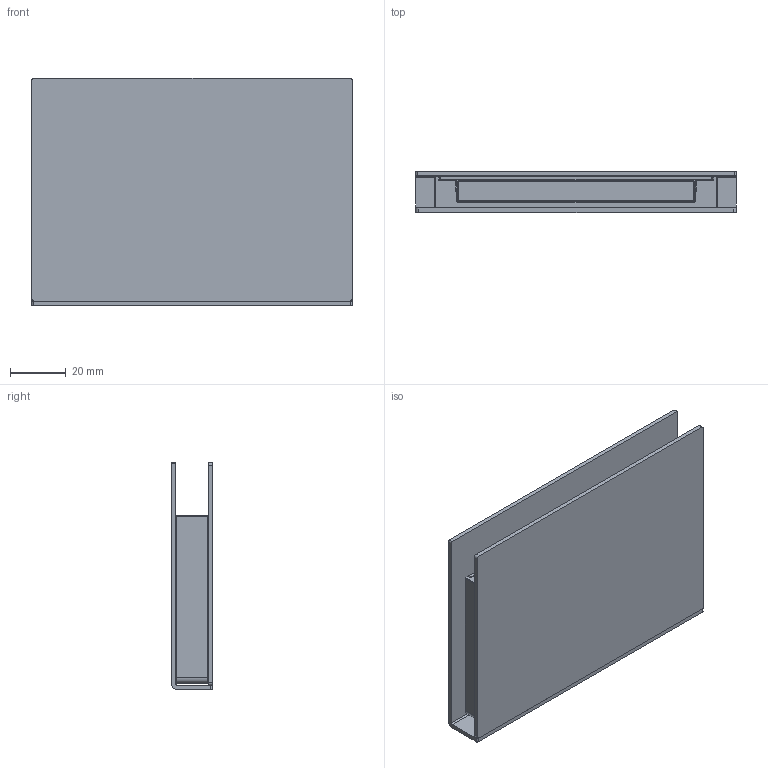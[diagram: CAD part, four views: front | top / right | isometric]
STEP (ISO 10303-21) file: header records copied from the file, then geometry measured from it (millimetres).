
FILE_DESCRIPTION((''),'2;1');
FILE_NAME('RAPPR_DI_DEFAULT_SW0001','2025-05-14T12:10:11',('elena.baldelli'),(''),'CREO PARAMETRIC BY PTC INC, 2020354','CREO PARAMETRIC BY PTC INC, 2020354','');
FILE_SCHEMA(('CONFIG_CONTROL_DESIGN'));
Length unit declared in the file: millimetre
Products named in the file (1): RAPPR_DI_DEFAULT_SW0001
Bounding box: 115 x 14.6 x 81.5 mm (x, y, z)
Surface area: 43504.4 mm2 (no closed solid volume)
Topology: 0 solids, 5 shells, 44 faces, 141 edges, 102 vertices
Faces by surface type: cylinder 24, plane 20
Entity records: 1577 total; most frequent: CARTESIAN_POINT 287, DIRECTION 283, ORIENTED_EDGE 212, EDGE_CURVE 141, VERTEX_POINT 102, AXIS2_PLACEMENT_3D 98, VECTOR 87, LINE 87
